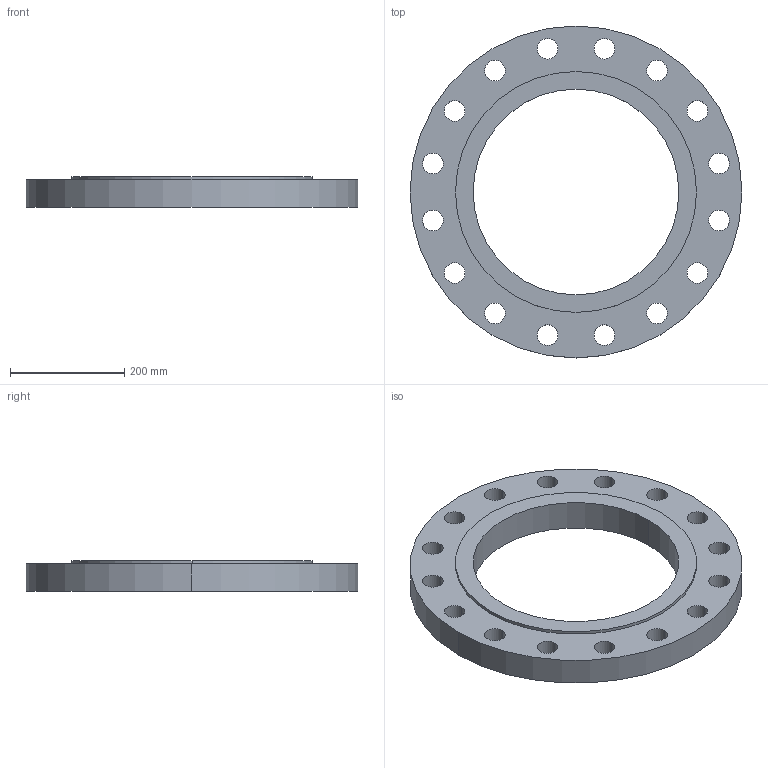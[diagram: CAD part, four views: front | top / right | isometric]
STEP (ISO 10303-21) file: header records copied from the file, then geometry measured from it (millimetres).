
FILE_DESCRIPTION (( 'STEP AP214' ), '1' );
FILE_NAME ('PN40 DN350 Type 01 - Type E Face.STEP', '2019-01-05T21:59:15', ( '' ), ( '' ), 'SwSTEP 2.0', 'SolidWorks 2019', '' );
FILE_SCHEMA (( 'AUTOMOTIVE_DESIGN' ));
Length unit declared in the file: millimetre
Products named in the file (1): PN40 DN350 Type 01 - Type E Face
Bounding box: 580 x 580 x 54 mm (x, y, z)
Volume: 7308566.6 mm3; surface area: 537232.4 mm2
Topology: 1 solids, 1 shells, 41 faces, 114 edges, 76 vertices
Faces by surface type: cylinder 38, plane 3
Entity records: 1466 total; most frequent: DIRECTION 274, CARTESIAN_POINT 232, ORIENTED_EDGE 228, AXIS2_PLACEMENT_3D 118, EDGE_CURVE 114, CIRCLE 76, EDGE_LOOP 76, VERTEX_POINT 76
